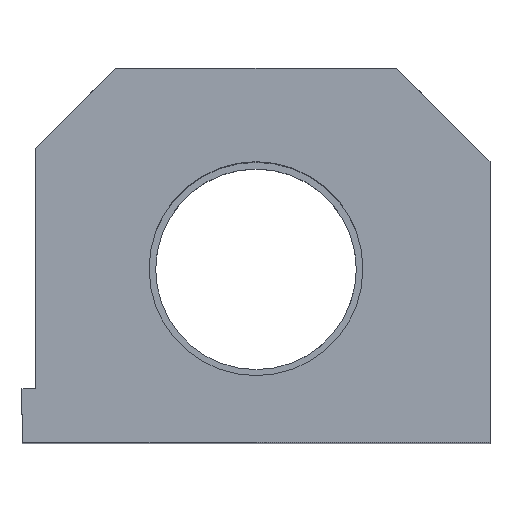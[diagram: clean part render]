
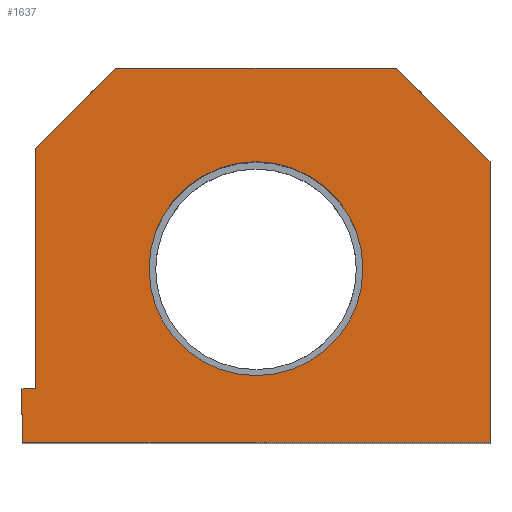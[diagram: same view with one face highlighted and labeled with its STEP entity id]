
A CAD part, top view. The second image highlights one B-rep face of the part: STEP entity #1637.
In plain terms, the highlighted planar face has unit normal (0, 0, 1).
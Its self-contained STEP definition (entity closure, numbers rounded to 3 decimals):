
#46 = EDGE_LOOP ( 'NONE', ( #783, #943 ) ) ;
#61 = CIRCLE ( 'NONE', #1434, 8. ) ;
#71 = ORIENTED_EDGE ( 'NONE', *, *, #1891, .T. ) ;
#77 = CARTESIAN_POINT ( 'NONE',  ( -16.5, -10., 31. ) ) ;
#216 = EDGE_CURVE ( 'NONE', #2164, #1775, #1829, .T. ) ;
#248 = CIRCLE ( 'NONE', #1515, 8. ) ;
#281 = DIRECTION ( 'NONE',  ( -0.707, 0.707, 0. ) ) ;
#285 = VERTEX_POINT ( 'NONE', #778 ) ;
#298 = LINE ( 'NONE', #661, #1733 ) ;
#305 = CARTESIAN_POINT ( 'NONE',  ( 0., -1., 31. ) ) ;
#327 = VECTOR ( 'NONE', #1166, 1000. ) ;
#346 = ORIENTED_EDGE ( 'NONE', *, *, #1598, .F. ) ;
#352 = VERTEX_POINT ( 'NONE', #1004 ) ;
#428 = ORIENTED_EDGE ( 'NONE', *, *, #216, .F. ) ;
#430 = LINE ( 'NONE', #77, #2197 ) ;
#477 = CARTESIAN_POINT ( 'NONE',  ( -17.5, 7., 31. ) ) ;
#536 = LINE ( 'NONE', #1928, #1773 ) ;
#574 = DIRECTION ( 'NONE',  ( 0., 1., 0. ) ) ;
#586 = PLANE ( 'NONE',  #1101 ) ;
#600 = CARTESIAN_POINT ( 'NONE',  ( -17.5, 14., 31. ) ) ;
#619 = VERTEX_POINT ( 'NONE', #956 ) ;
#655 = LINE ( 'NONE', #477, #327 ) ;
#661 = CARTESIAN_POINT ( 'NONE',  ( 17.5, 14., 31. ) ) ;
#672 = CARTESIAN_POINT ( 'NONE',  ( -10.5, 14., 31. ) ) ;
#733 = VECTOR ( 'NONE', #2152, 1000. ) ;
#745 = DIRECTION ( 'NONE',  ( -1., 0., 0. ) ) ;
#758 = ORIENTED_EDGE ( 'NONE', *, *, #1763, .T. ) ;
#778 = CARTESIAN_POINT ( 'NONE',  ( -17.5, -10., 31. ) ) ;
#783 = ORIENTED_EDGE ( 'NONE', *, *, #1447, .F. ) ;
#799 = VECTOR ( 'NONE', #932, 1000. ) ;
#839 = CARTESIAN_POINT ( 'NONE',  ( 8., -1., 31. ) ) ;
#855 = DIRECTION ( 'NONE',  ( -1., 0., 0. ) ) ;
#909 = VERTEX_POINT ( 'NONE', #1561 ) ;
#932 = DIRECTION ( 'NONE',  ( 1., 0., 0. ) ) ;
#943 = ORIENTED_EDGE ( 'NONE', *, *, #1543, .F. ) ;
#951 = ORIENTED_EDGE ( 'NONE', *, *, #1076, .F. ) ;
#956 = CARTESIAN_POINT ( 'NONE',  ( -8., -1., 31. ) ) ;
#1004 = CARTESIAN_POINT ( 'NONE',  ( -16.5, -10., 31. ) ) ;
#1075 = CARTESIAN_POINT ( 'NONE',  ( -16.5, 8., 31. ) ) ;
#1076 = EDGE_CURVE ( 'NONE', #1955, #1529, #298, .T. ) ;
#1086 = LINE ( 'NONE', #1428, #733 ) ;
#1101 = AXIS2_PLACEMENT_3D ( 'NONE', #1487, #1830, #745 ) ;
#1166 = DIRECTION ( 'NONE',  ( -0.707, -0.707, 0. ) ) ;
#1175 = ORIENTED_EDGE ( 'NONE', *, *, #1185, .T. ) ;
#1185 = EDGE_CURVE ( 'NONE', #352, #285, #1375, .T. ) ;
#1236 = CARTESIAN_POINT ( 'NONE',  ( -16.5, -10., 31. ) ) ;
#1245 = CARTESIAN_POINT ( 'NONE',  ( 17.5, -14., 31. ) ) ;
#1288 = CARTESIAN_POINT ( 'NONE',  ( 10.5, 14., 31. ) ) ;
#1313 = DIRECTION ( 'NONE',  ( 1., 0., 0. ) ) ;
#1329 = EDGE_CURVE ( 'NONE', #909, #1529, #1086, .T. ) ;
#1375 = LINE ( 'NONE', #1236, #1549 ) ;
#1393 = DIRECTION ( 'NONE',  ( 0., 0., 1. ) ) ;
#1428 = CARTESIAN_POINT ( 'NONE',  ( -17.5, -14., 31. ) ) ;
#1434 = AXIS2_PLACEMENT_3D ( 'NONE', #305, #2175, #1313 ) ;
#1447 = EDGE_CURVE ( 'NONE', #1796, #619, #61, .T. ) ;
#1487 = CARTESIAN_POINT ( 'NONE',  ( 0., 0., 31. ) ) ;
#1491 = LINE ( 'NONE', #1288, #1806 ) ;
#1515 = AXIS2_PLACEMENT_3D ( 'NONE', #1953, #1393, #1762 ) ;
#1529 = VERTEX_POINT ( 'NONE', #1245 ) ;
#1543 = EDGE_CURVE ( 'NONE', #619, #1796, #248, .T. ) ;
#1549 = VECTOR ( 'NONE', #855, 1000. ) ;
#1561 = CARTESIAN_POINT ( 'NONE',  ( -17.5, -14., 31. ) ) ;
#1578 = ORIENTED_EDGE ( 'NONE', *, *, #1329, .T. ) ;
#1581 = ORIENTED_EDGE ( 'NONE', *, *, #1980, .T. ) ;
#1598 = EDGE_CURVE ( 'NONE', #352, #1922, #430, .T. ) ;
#1633 = FACE_BOUND ( 'NONE', #46, .T. ) ;
#1637 = ADVANCED_FACE ( 'NONE', ( #1633, #1973 ), #586, .F. ) ;
#1733 = VECTOR ( 'NONE', #2016, 1000. ) ;
#1756 = DIRECTION ( 'NONE',  ( 0., -1., 0. ) ) ;
#1762 = DIRECTION ( 'NONE',  ( 1., 0., 0. ) ) ;
#1763 = EDGE_CURVE ( 'NONE', #2164, #1922, #655, .T. ) ;
#1773 = VECTOR ( 'NONE', #1756, 1000. ) ;
#1775 = VERTEX_POINT ( 'NONE', #2196 ) ;
#1796 = VERTEX_POINT ( 'NONE', #839 ) ;
#1806 = VECTOR ( 'NONE', #281, 1000. ) ;
#1829 = LINE ( 'NONE', #600, #799 ) ;
#1830 = DIRECTION ( 'NONE',  ( 0., 0., -1. ) ) ;
#1891 = EDGE_CURVE ( 'NONE', #285, #909, #536, .T. ) ;
#1922 = VERTEX_POINT ( 'NONE', #1075 ) ;
#1928 = CARTESIAN_POINT ( 'NONE',  ( -17.5, 14., 31. ) ) ;
#1938 = CARTESIAN_POINT ( 'NONE',  ( 17.5, 7., 31. ) ) ;
#1953 = CARTESIAN_POINT ( 'NONE',  ( 0., -1., 31. ) ) ;
#1955 = VERTEX_POINT ( 'NONE', #1938 ) ;
#1973 = FACE_OUTER_BOUND ( 'NONE', #2111, .T. ) ;
#1980 = EDGE_CURVE ( 'NONE', #1955, #1775, #1491, .T. ) ;
#2016 = DIRECTION ( 'NONE',  ( 0., -1., 0. ) ) ;
#2111 = EDGE_LOOP ( 'NONE', ( #346, #1175, #71, #1578, #951, #1581, #428, #758 ) ) ;
#2152 = DIRECTION ( 'NONE',  ( 1., 0., 0. ) ) ;
#2164 = VERTEX_POINT ( 'NONE', #672 ) ;
#2175 = DIRECTION ( 'NONE',  ( 0., 0., 1. ) ) ;
#2196 = CARTESIAN_POINT ( 'NONE',  ( 10.5, 14., 31. ) ) ;
#2197 = VECTOR ( 'NONE', #574, 1000. ) ;
